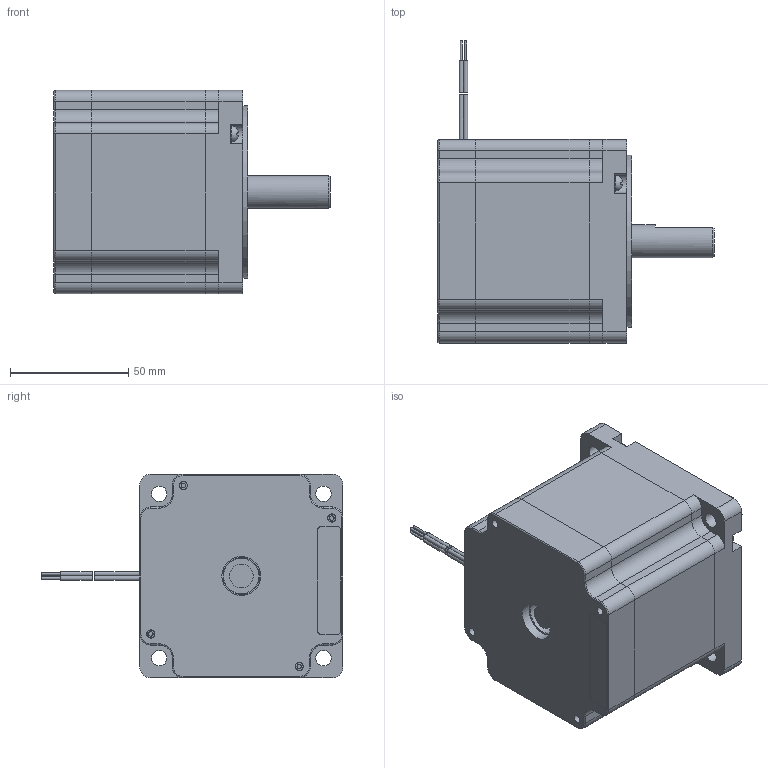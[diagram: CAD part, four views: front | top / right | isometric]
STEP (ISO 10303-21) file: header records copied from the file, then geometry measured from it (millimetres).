
FILE_DESCRIPTION((''),'1');
FILE_NAME('C:/Users/mulloa/Desktop/M-3431-6.3S.stp', '2019-04-02T15:58:10',(''), (''), 'KCM Version 1.1.0.0', 'KeyCreator', '');
FILE_SCHEMA(('AUTOMOTIVE_DESIGN'));
Length unit declared in the file: inch
Bounding box: 117.07 x 127.89 x 86.11 mm (x, y, z)
Volume: 550485.3 mm3; surface area: 123502.8 mm2
Topology: 40 solids, 40 shells, 434 faces, 1010 edges, 711 vertices
Faces by surface type: plane 206, cylinder 147, cone 43, torus 27, extrusion 6, bspline 5
Full cylindrical faces by diameter (mm): 1.016 x4, 1.778 x9, 1.829 x8, 3.429 x4, 4.496 x8, 6.374 x1, 6.502 x4, 6.731 x4, 10 x1, 14 x1, 15 x2, 16.51 x2, 17.78 x1, 35 x4, 50.8 x1, 52.197 x1, 52.3 x2, 52.324 x1, 56.21 x1, 59.004 x1, 73 x1, 76.276 x1, 77.8 x1
Entity records: 13232 total; most frequent: CARTESIAN_POINT 2486, DIRECTION 2259, ORIENTED_EDGE 1948, EDGE_CURVE 974, AXIS2_PLACEMENT_3D 893, VERTEX_POINT 639, EDGE_LOOP 493, VECTOR 473
